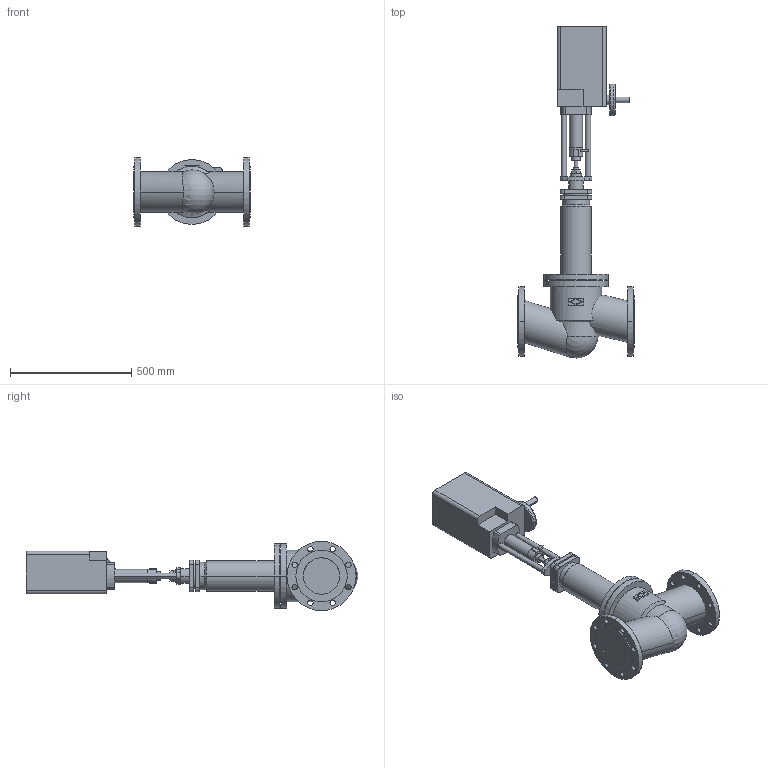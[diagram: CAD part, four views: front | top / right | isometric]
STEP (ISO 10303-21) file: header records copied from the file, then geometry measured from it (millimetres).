
FILE_DESCRIPTION( ( '' ), '1' );
FILE_NAME( 'F:/DE-SHS/TB/OR/04-Sonstiges/daten/files_3d/c000004829.stp', '2013-06-20T10:14:27', ( '' ), ( '' ), ' ', ' ', ' ' );
FILE_SCHEMA( ( 'CONFIG_CONTROL_DESIGN' ) );
Length unit declared in the file: millimetre
Products named in the file (2): 1; 2
Bounding box: 480 x 1369.04 x 285 mm (x, y, z)
Volume: 37328165.5 mm3; surface area: 1352668 mm2
Topology: 2 solids, 2 shells, 216 faces, 537 edges, 356 vertices
Faces by surface type: cylinder 112, plane 95, cone 4, torus 4, sphere 1
Entity records: 7212 total; most frequent: CARTESIAN_POINT 1681, DIRECTION 1210, ORIENTED_EDGE 1070, EDGE_CURVE 535, AXIS2_PLACEMENT_3D 471, VERTEX_POINT 356, EDGE_LOOP 281, LINE 268
